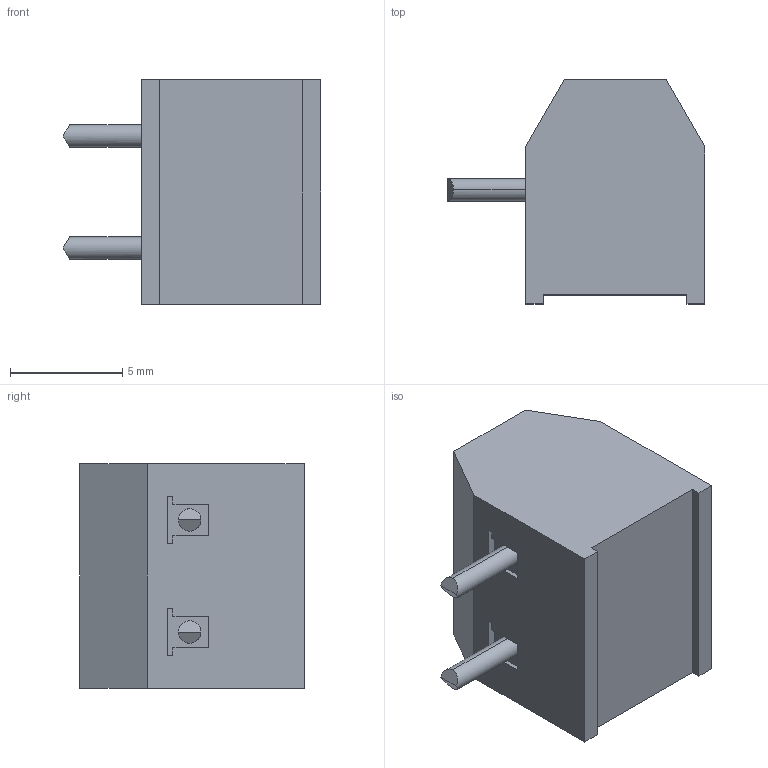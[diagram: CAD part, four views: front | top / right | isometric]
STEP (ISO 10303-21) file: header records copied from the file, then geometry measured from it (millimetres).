
FILE_DESCRIPTION (( 'STEP AP214' ), '1' );
FILE_NAME ('951-HG-DS-02.STEP', '2008-02-28T18:32:05', ( 'weco' ), ( 'weco' ), 'SwSTEP 2.0', 'SolidWorks 2007', '' );
FILE_SCHEMA (( 'AUTOMOTIVE_DESIGN' ));
Length unit declared in the file: millimetre
Products named in the file (1): 951-HG-DS-02
Bounding box: 11.5 x 10 x 10 mm (x, y, z)
Volume: 640.4 mm3; surface area: 712.3 mm2
Topology: 1 solids, 1 shells, 160 faces, 496 edges, 328 vertices
Faces by surface type: plane 126, cylinder 24, cone 6, bspline 4
Entity records: 5721 total; most frequent: CARTESIAN_POINT 1309, ORIENTED_EDGE 992, DIRECTION 836, EDGE_CURVE 496, VECTOR 342, LINE 342, VERTEX_POINT 328, AXIS2_PLACEMENT_3D 247
